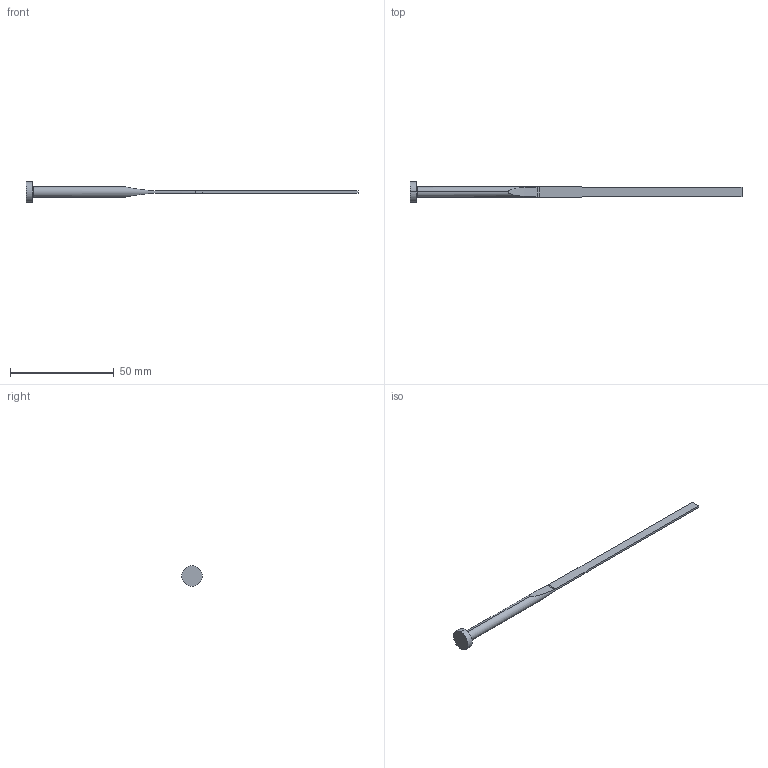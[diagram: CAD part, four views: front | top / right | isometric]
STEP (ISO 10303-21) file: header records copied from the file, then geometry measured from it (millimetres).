
FILE_DESCRIPTION (( 'STEP AP214' ), '1' );
FILE_NAME ('AL-1,0x4,5x160.STEP', '2020-06-11T10:58:42', ( 'August' ), ( '' ), 'SwSTEP 2.0', 'SolidWorks 2018', '' );
FILE_SCHEMA (( 'AUTOMOTIVE_DESIGN' ));
Length unit declared in the file: millimetre
Products named in the file (1): AL-1,0x4,5x160
Bounding box: 160 x 10 x 10 mm (x, y, z)
Volume: 1737.9 mm3; surface area: 2229.5 mm2
Topology: 1 solids, 1 shells, 19 faces, 46 edges, 30 vertices
Faces by surface type: cylinder 10, plane 7, torus 2
Entity records: 709 total; most frequent: CARTESIAN_POINT 233, ORIENTED_EDGE 92, DIRECTION 90, EDGE_CURVE 46, AXIS2_PLACEMENT_3D 34, VERTEX_POINT 30, LINE 22, VECTOR 22
